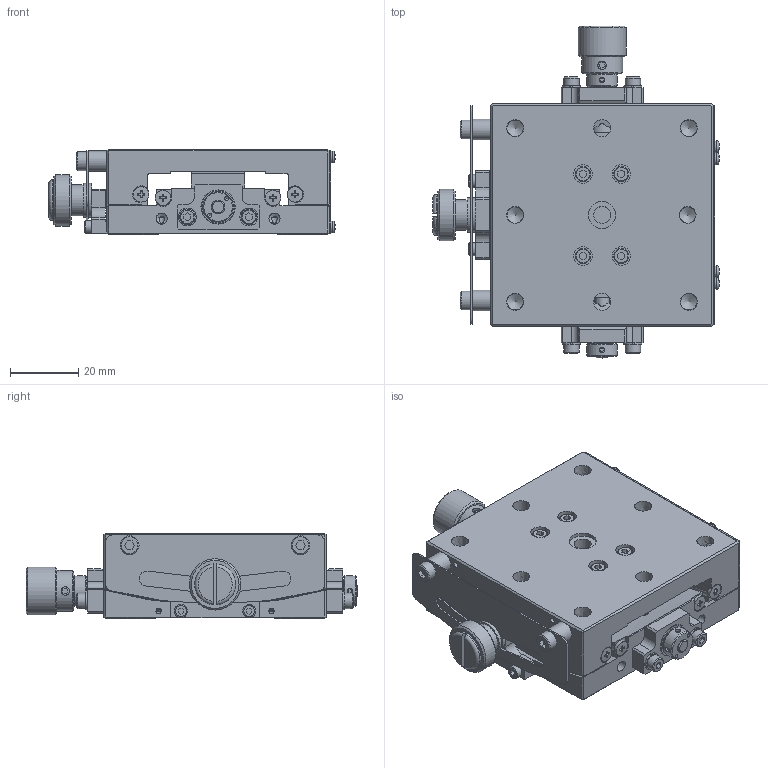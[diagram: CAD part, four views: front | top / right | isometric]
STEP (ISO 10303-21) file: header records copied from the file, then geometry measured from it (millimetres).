
FILE_DESCRIPTION((''),'2;1');
FILE_NAME('Y:\3DDATA\2_OpticalHard\02_海外製品\1_Stags\GOHT\□65\GOHT-65A100BUU\GOHT-65A100BUU.stp','2014-04-09T11:38:39',('usernoto011'),(''),'Autodesk Inventor 2008','Autodesk Inventor 2008','');
FILE_SCHEMA(('AUTOMOTIVE_DESIGN { 1 0 10303 214 1 1 1 1 }'));
Length unit declared in the file: millimetre
Products named in the file (3): GOHT65A100BUU-M02-08001-S10; GOHT65A100BUU-M02-08001-S09; GOHT65A100BUU-M02-08001-S08
Assembly tree (2 placements, depth 2):
  GOHT65A100BUU-M02-08001-S10
    GOHT65A100BUU-M02-08001-S09
    GOHT65A100BUU-M02-08001-S08
Bounding box: 83.74 x 97.1 x 25 mm (x, y, z)
Volume: 87029.1 mm3; surface area: 41061.1 mm2
Topology: 2 solids, 43 shells, 1071 faces, 2661 edges, 1733 vertices
Faces by surface type: plane 587, bspline 213, cylinder 172, cone 62, torus 25, sphere 12
Full cylindrical faces by diameter (mm): 1.5 x8, 2 x6, 2.459 x2, 2.5 x8, 3 x3, 3.8 x2, 4 x6, 4.2 x2, 4.5 x16, 5.2 x1, 5.5 x2, 5.8 x2, 5.92 x8, 6 x2, 6.9 x2, 7 x4, 8 x3, 8.08 x4, 8.484 x4, 9 x3, 10 x2, 12 x5, 14 x1, 15 x1
Entity records: 34072 total; most frequent: CARTESIAN_POINT 11455, DIRECTION 4508, ORIENTED_EDGE 4230, EDGE_CURVE 2115, AXIS2_PLACEMENT_3D 1694, EDGE_LOOP 1586, VERTEX_POINT 1537, VECTOR 1120
